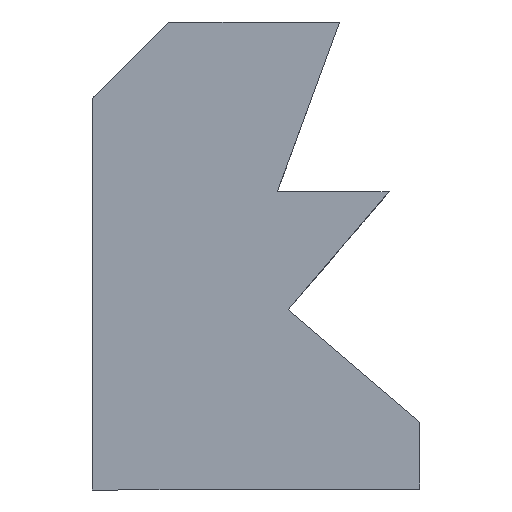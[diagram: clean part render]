
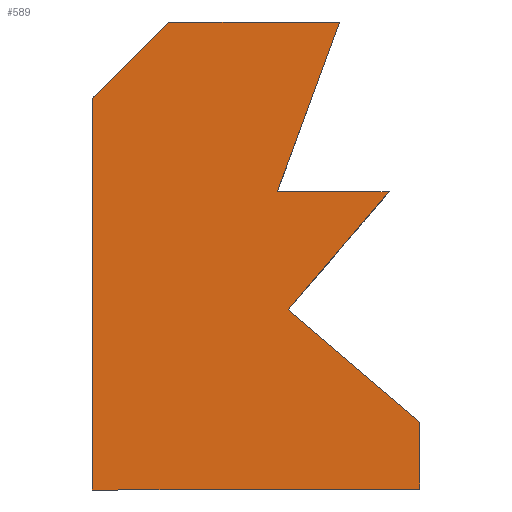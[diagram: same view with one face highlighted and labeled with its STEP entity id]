
A CAD part, front view. The second image highlights one B-rep face of the part: STEP entity #589.
In plain terms, the highlighted planar face has unit normal (0, -1, 0).
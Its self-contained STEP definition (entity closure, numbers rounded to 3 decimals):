
#218=CARTESIAN_POINT('',(-8.662,67.8,35.55));
#219=VERTEX_POINT('',#218);
#227=CARTESIAN_POINT('',(-11.591,67.8,35.55));
#228=VERTEX_POINT('',#227);
#235=CARTESIAN_POINT('',(-8.662,67.8,35.55));
#236=DIRECTION('',(-1.,0.,0.));
#237=VECTOR('',#236,2.928);
#238=LINE('',#235,#237);
#239=EDGE_CURVE('',#219,#228,#238,.T.);
#259=CARTESIAN_POINT('',(-15.767,67.8,27.738));
#260=VERTEX_POINT('',#259);
#267=CARTESIAN_POINT('',(-16.434,67.8,27.738));
#268=VERTEX_POINT('',#267);
#269=CARTESIAN_POINT('',(-15.767,67.8,27.738));
#270=DIRECTION('',(-1.,0.,0.));
#271=VECTOR('',#270,0.667);
#272=LINE('',#269,#271);
#273=EDGE_CURVE('',#260,#268,#272,.T.);
#289=CARTESIAN_POINT('',(-16.434,67.8,38.));
#290=VERTEX_POINT('',#289);
#340=CARTESIAN_POINT('',(-16.434,67.8,38.));
#341=DIRECTION('',(-0.,-0.,-1.));
#342=VECTOR('',#341,10.262);
#343=LINE('',#340,#342);
#344=EDGE_CURVE('',#290,#268,#343,.T.);
#364=CARTESIAN_POINT('',(-14.434,67.8,40.));
#365=VERTEX_POINT('',#364);
#372=CARTESIAN_POINT('',(-9.961,67.8,40.));
#373=VERTEX_POINT('',#372);
#374=CARTESIAN_POINT('',(-9.961,67.8,40.));
#375=DIRECTION('',(-1.,0.,0.));
#376=VECTOR('',#375,4.472);
#377=LINE('',#374,#376);
#378=EDGE_CURVE('',#373,#365,#377,.T.);
#411=CARTESIAN_POINT('',(-9.961,67.8,40.));
#412=DIRECTION('',(-0.344,0.,-0.939));
#413=VECTOR('',#412,4.739);
#414=LINE('',#411,#413);
#415=EDGE_CURVE('',#373,#228,#414,.T.);
#458=CARTESIAN_POINT('',(-11.305,67.8,32.456));
#459=VERTEX_POINT('',#458);
#460=CARTESIAN_POINT('',(-11.305,67.8,32.456));
#461=DIRECTION('',(0.65,0.,0.76));
#462=VECTOR('',#461,4.069);
#463=LINE('',#460,#462);
#464=EDGE_CURVE('',#459,#219,#463,.T.);
#497=CARTESIAN_POINT('',(-7.863,67.8,29.516));
#498=VERTEX_POINT('',#497);
#499=CARTESIAN_POINT('',(-11.305,67.8,32.456));
#500=DIRECTION('',(0.76,0.,-0.65));
#501=VECTOR('',#500,4.527);
#502=LINE('',#499,#501);
#503=EDGE_CURVE('',#459,#498,#502,.T.);
#528=CARTESIAN_POINT('',(-7.863,67.8,27.762));
#529=VERTEX_POINT('',#528);
#530=CARTESIAN_POINT('',(-7.863,67.8,29.516));
#531=DIRECTION('',(0.,0.,-1.));
#532=VECTOR('',#531,1.755);
#533=LINE('',#530,#532);
#534=EDGE_CURVE('',#498,#529,#533,.T.);
#557=CARTESIAN_POINT('',(-7.863,67.8,27.762));
#558=DIRECTION('',(-1.,0.,-0.003));
#559=VECTOR('',#558,7.903);
#560=LINE('',#557,#559);
#561=EDGE_CURVE('',#529,#260,#560,.T.);
#567=CARTESIAN_POINT('',(0.,67.8,0.));
#568=DIRECTION('',(0.,1.,0.));
#569=DIRECTION('',(-1.,0.,0.));
#570=AXIS2_PLACEMENT_3D('',#567,#568,#569);
#571=PLANE('',#570);
#572=ORIENTED_EDGE('',*,*,#378,.T.);
#573=CARTESIAN_POINT('',(-14.434,67.8,40.));
#574=DIRECTION('',(-0.707,0.,-0.707));
#575=VECTOR('',#574,2.828);
#576=LINE('',#573,#575);
#577=EDGE_CURVE('',#365,#290,#576,.T.);
#578=ORIENTED_EDGE('',*,*,#577,.T.);
#579=ORIENTED_EDGE('',*,*,#344,.T.);
#580=ORIENTED_EDGE('',*,*,#273,.F.);
#581=ORIENTED_EDGE('',*,*,#561,.F.);
#582=ORIENTED_EDGE('',*,*,#534,.F.);
#583=ORIENTED_EDGE('',*,*,#503,.F.);
#584=ORIENTED_EDGE('',*,*,#464,.T.);
#585=ORIENTED_EDGE('',*,*,#239,.T.);
#586=ORIENTED_EDGE('',*,*,#415,.F.);
#587=EDGE_LOOP('',(#572,#578,#579,#580,#581,#582,#583,#584,#585,#586));
#588=FACE_BOUND('',#587,.T.);
#589=ADVANCED_FACE('',(#588),#571,.F.);
